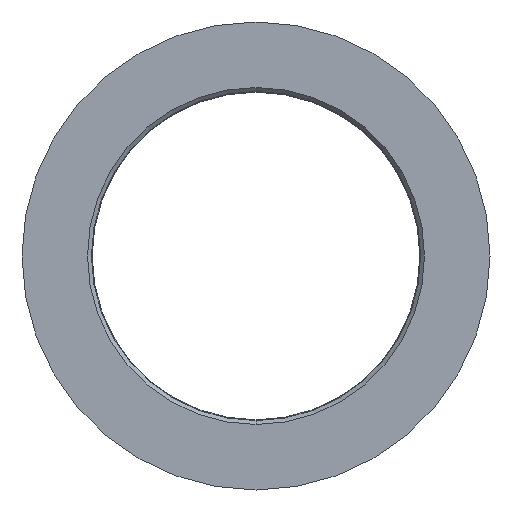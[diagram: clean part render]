
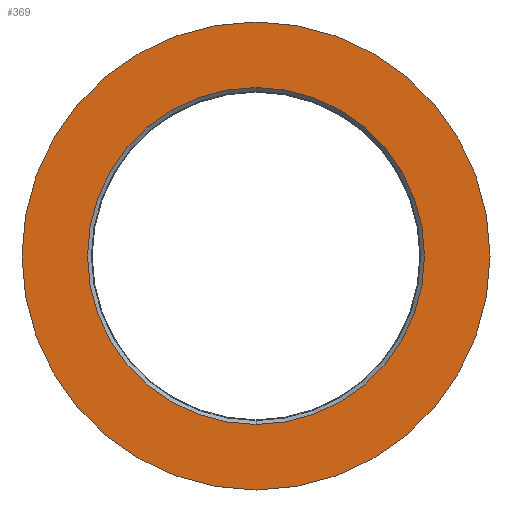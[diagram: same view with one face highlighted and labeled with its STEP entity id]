
A CAD part, front view. The second image highlights one B-rep face of the part: STEP entity #369.
In plain terms, the highlighted planar face has unit normal (0, -1, 0).
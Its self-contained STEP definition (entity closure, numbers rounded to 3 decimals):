
#23 = PLANE ( 'NONE',  #514 ) ;
#26 = CIRCLE ( 'NONE', #483, 30. ) ;
#28 = EDGE_LOOP ( 'NONE', ( #338, #452 ) ) ;
#41 = FACE_OUTER_BOUND ( 'NONE', #28, .T. ) ;
#51 = DIRECTION ( 'NONE',  ( 0., 1., 0. ) ) ;
#63 = VERTEX_POINT ( 'NONE', #290 ) ;
#64 = CARTESIAN_POINT ( 'NONE',  ( 0., -10., -30. ) ) ;
#67 = DIRECTION ( 'NONE',  ( 0., 0., -1. ) ) ;
#86 = VERTEX_POINT ( 'NONE', #64 ) ;
#93 = FACE_BOUND ( 'NONE', #460, .T. ) ;
#98 = DIRECTION ( 'NONE',  ( 0., 0., 1. ) ) ;
#103 = CARTESIAN_POINT ( 'NONE',  ( 0., -10., 0. ) ) ;
#104 = DIRECTION ( 'NONE',  ( 0., 0., 1. ) ) ;
#116 = VERTEX_POINT ( 'NONE', #539 ) ;
#128 = CIRCLE ( 'NONE', #312, 21.6 ) ;
#151 = EDGE_CURVE ( 'NONE', #63, #86, #484, .T. ) ;
#184 = DIRECTION ( 'NONE',  ( 0., 0., -1. ) ) ;
#206 = DIRECTION ( 'NONE',  ( 0., 1., 0. ) ) ;
#239 = CARTESIAN_POINT ( 'NONE',  ( 0., -10., 0. ) ) ;
#252 = VERTEX_POINT ( 'NONE', #353 ) ;
#258 = ORIENTED_EDGE ( 'NONE', *, *, #489, .T. ) ;
#261 = AXIS2_PLACEMENT_3D ( 'NONE', #522, #533, #104 ) ;
#266 = ORIENTED_EDGE ( 'NONE', *, *, #505, .T. ) ;
#279 = DIRECTION ( 'NONE',  ( 0., -1., 0. ) ) ;
#290 = CARTESIAN_POINT ( 'NONE',  ( 0., -10., 30. ) ) ;
#306 = DIRECTION ( 'NONE',  ( 0., -1., 0. ) ) ;
#312 = AXIS2_PLACEMENT_3D ( 'NONE', #415, #51, #98 ) ;
#338 = ORIENTED_EDGE ( 'NONE', *, *, #370, .T. ) ;
#353 = CARTESIAN_POINT ( 'NONE',  ( 0., -10., -21.6 ) ) ;
#356 = AXIS2_PLACEMENT_3D ( 'NONE', #103, #306, #184 ) ;
#364 = CARTESIAN_POINT ( 'NONE',  ( -21.1, -10., 0. ) ) ;
#369 = ADVANCED_FACE ( 'NONE', ( #93, #41 ), #23, .F. ) ;
#370 = EDGE_CURVE ( 'NONE', #86, #63, #26, .T. ) ;
#415 = CARTESIAN_POINT ( 'NONE',  ( 0., -10., 0. ) ) ;
#452 = ORIENTED_EDGE ( 'NONE', *, *, #151, .T. ) ;
#460 = EDGE_LOOP ( 'NONE', ( #266, #258 ) ) ;
#483 = AXIS2_PLACEMENT_3D ( 'NONE', #239, #279, #67 ) ;
#484 = CIRCLE ( 'NONE', #356, 30. ) ;
#489 = EDGE_CURVE ( 'NONE', #116, #252, #499, .T. ) ;
#499 = CIRCLE ( 'NONE', #261, 21.6 ) ;
#505 = EDGE_CURVE ( 'NONE', #252, #116, #128, .T. ) ;
#514 = AXIS2_PLACEMENT_3D ( 'NONE', #364, #206, #524 ) ;
#522 = CARTESIAN_POINT ( 'NONE',  ( 0., -10., 0. ) ) ;
#524 = DIRECTION ( 'NONE',  ( 0., 0., 1. ) ) ;
#533 = DIRECTION ( 'NONE',  ( 0., 1., 0. ) ) ;
#539 = CARTESIAN_POINT ( 'NONE',  ( 0., -10., 21.6 ) ) ;
